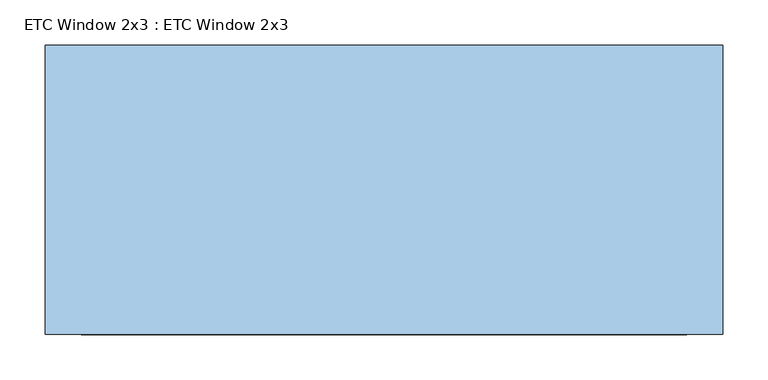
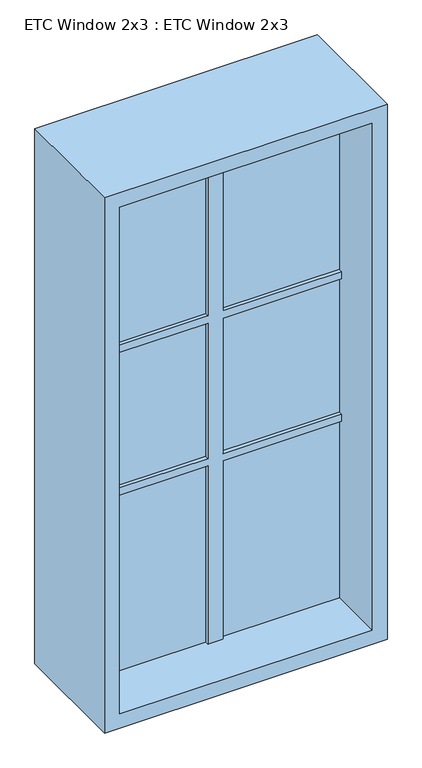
"""IFC4 building model written with IfcOpenShell, lengths in millimetres: window geometry, ETC Window 2x3 : ETC Window 2x3."""

from ifc_helpers import new_model, si_unit, frame, origin, place, context, project, spatial, polyline, outline, extrude, source, transform, mapped, element, save


def etc_window_2x3_etc_window_2x3_6c76f610(model_context):
    return source(origin(), model_context, "Body", "SweptSolid", [
        extrude(outline(polyline([(1760.0, 20.0), (2260.0, 20.0), (2260.0, -20.0), (1760.0, -20.0), (1760.0, -335.0), (1740.0, -335.0), (1740.0, -20.0), (1360.0, -20.0), (1360.0, -335.0), (1340.0, -335.0), (1340.0, -20.0), (840.0, -20.0), (840.0, 20.0), (1340.0, 20.0), (1340.0, 335.0), (1360.0, 335.0), (1360.0, 20.0), (1740.0, 20.0), (1740.0, 335.0), (1760.0, 335.0), (1760.0, 20.0)])), frame((0.0, -20.0, 0.0), z_axis=(0.0, 1.0, 0.0), x_axis=(0.0, 0.0, 1.0)), (0.0, 0.0, 1.0), 40.0),
        extrude(outline(polyline([(335.0, -10.0), (20.0, -10.0), (20.0, 10.0), (335.0, 10.0), (335.0, -10.0)])), frame((0.0, 0.0, 840.0), z_axis=(0.0, 0.0, 1.0), x_axis=(1.0, 0.0, 0.0)), (0.0, 0.0, 1.0), 500.0),
        extrude(outline(polyline([(-20.0, -10.0), (-335.0, -10.0), (-335.0, 10.0), (-20.0, 10.0), (-20.0, -10.0)])), frame((0.0, 0.0, 840.0), z_axis=(0.0, 0.0, 1.0), x_axis=(1.0, 0.0, 0.0)), (0.0, 0.0, 1.0), 500.0),
        extrude(outline(polyline([(335.0, -10.0), (20.0, -10.0), (20.0, 10.0), (335.0, 10.0), (335.0, -10.0)])), frame((0.0, 0.0, 1760.0), z_axis=(0.0, 0.0, 1.0), x_axis=(1.0, 0.0, 0.0)), (0.0, 0.0, 1.0), 500.0),
        extrude(outline(polyline([(-20.0, -10.0), (-335.0, -10.0), (-335.0, 10.0), (-20.0, 10.0), (-20.0, -10.0)])), frame((0.0, 0.0, 1760.0), z_axis=(0.0, 0.0, 1.0), x_axis=(1.0, 0.0, 0.0)), (0.0, 0.0, 1.0), 500.0),
        extrude(outline(polyline([(335.0, -10.0), (20.0, -10.0), (20.0, 10.0), (335.0, 10.0), (335.0, -10.0)])), frame((0.0, 0.0, 1360.0), z_axis=(0.0, 0.0, 1.0), x_axis=(1.0, 0.0, 0.0)), (0.0, 0.0, 1.0), 380.0),
        extrude(outline(polyline([(-20.0, -10.0), (-335.0, -10.0), (-335.0, 10.0), (-20.0, 10.0), (-20.0, -10.0)])), frame((0.0, 0.0, 1360.0), z_axis=(0.0, 0.0, 1.0), x_axis=(1.0, 0.0, 0.0)), (0.0, 0.0, 1.0), 380.0),
        extrude(outline(polyline([(2300.0, 375.0), (2300.0, -375.0), (800.0, -375.0), (800.0, 375.0), (2300.0, 375.0)]), holes=[polyline([(2260.0, -335.0), (2260.0, 335.0), (840.0, 335.0), (840.0, -335.0), (2260.0, -335.0)])]), frame((0.0, -160.0, 0.0), z_axis=(0.0, 1.0, 0.0), x_axis=(0.0, 0.0, 1.0)), (0.0, 0.0, 1.0), 320.0),
    ])


if __name__ == "__main__":
    model = new_model("IFC4")
    model_context = context("Model", 3, world=origin())
    ifc_project = project(units=[si_unit("LENGTHUNIT", "METRE", prefix="MILLI")], contexts=[model_context])
    site = spatial("IfcSite", under=ifc_project)
    building = spatial("IfcBuilding", under=site)
    placement = place(None, origin())
    etc_window_2x3_etc_window_2x3_shape = etc_window_2x3_etc_window_2x3_6c76f610(model_context)
    element("IfcWindow", 1, ObjectType="ETC Window 2x3 : ETC Window 2x3", at=placement, inside=building, context=model_context, shape_type="MappedRepresentation", body=[
        mapped(etc_window_2x3_etc_window_2x3_shape, transform((0.0, 0.0, 0.0), x_axis=(1.0, 0.0, 0.0), y_axis=(0.0, 1.0, 0.0), z_axis=(0.0, 0.0, 1.0))),
    ])
    save(model, "model.ifc")
